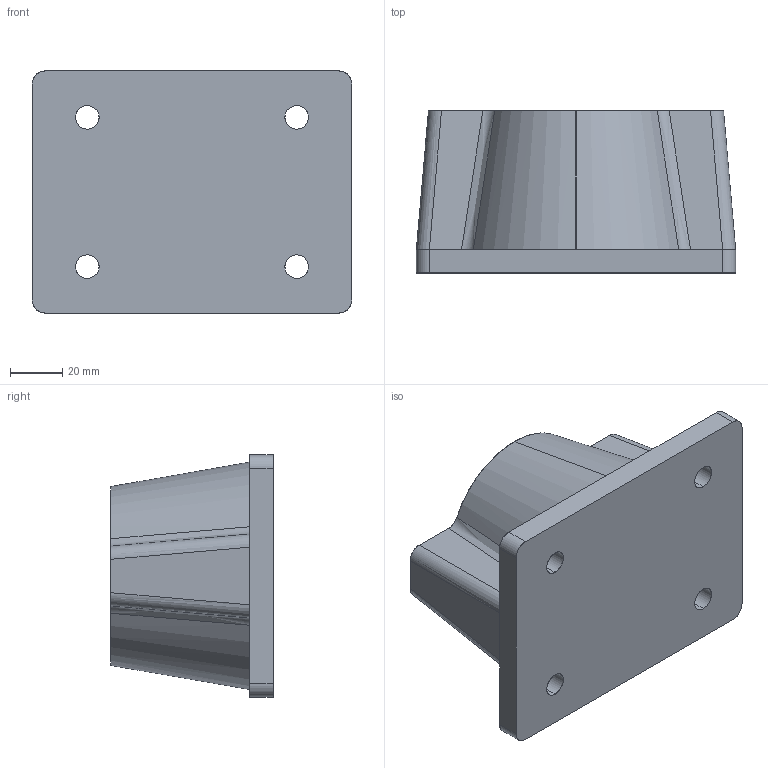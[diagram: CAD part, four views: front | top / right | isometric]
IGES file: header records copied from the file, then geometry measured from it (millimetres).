
Start section: SolidWorks IGES file using analytic representation for surfaces
Global section: file name: C:\Solidworks\omat tuotteet\Space charge models\Multigate\halkeavat\IGES\106582.IGS; native system: SolidWorks 2016; preprocessor: SolidWorks 2016; author: joni.lehtonen; date: 160215.104143; units: millimetre
Bounding box: 122 x 62 x 92.5 mm (x, y, z)
Surface area: 41568 mm2 (no closed solid volume)
Topology: 0 solids, 0 shells, 37 faces, 716 edges, 716 vertices
Faces by surface type: revolution 19, bspline 18
